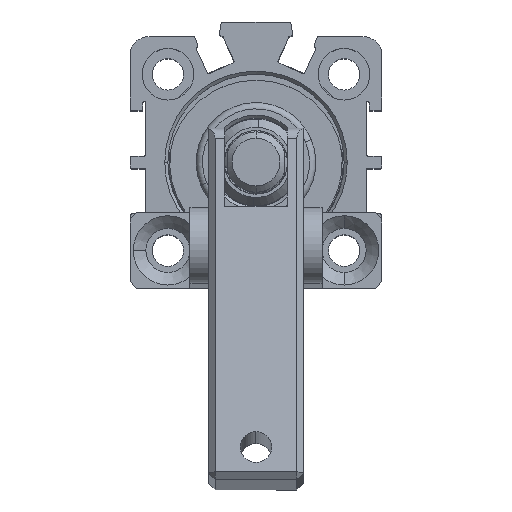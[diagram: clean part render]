
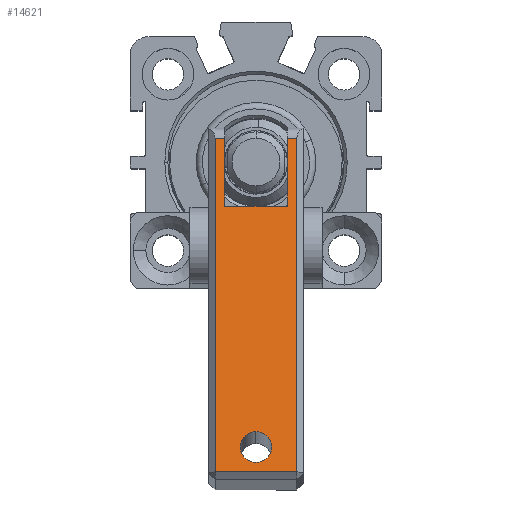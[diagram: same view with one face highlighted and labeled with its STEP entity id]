
A CAD part, top view. The second image highlights one B-rep face of the part: STEP entity #14621.
In plain terms, the highlighted planar face has unit normal (0, 0.19, 0.982) as drawn and (0, 1, 0) by its records, which use the part's own axes.
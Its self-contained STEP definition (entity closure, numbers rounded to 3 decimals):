
#25 = ORIENTED_EDGE ( 'NONE', *, *, #2933, .T. ) ;
#161 = EDGE_LOOP ( 'NONE', ( #11188, #25, #1455, #15914, #7009, #5903, #14858, #13605 ) ) ;
#297 = ORIENTED_EDGE ( 'NONE', *, *, #5810, .T. ) ;
#359 = CARTESIAN_POINT ( 'NONE',  ( 2.5, 13., 7.5 ) ) ;
#381 = VERTEX_POINT ( 'NONE', #9125 ) ;
#750 = LINE ( 'NONE', #1010, #9967 ) ;
#1010 = CARTESIAN_POINT ( 'NONE',  ( 1., 13., 15. ) ) ;
#1455 = ORIENTED_EDGE ( 'NONE', *, *, #12991, .T. ) ;
#1526 = CARTESIAN_POINT ( 'NONE',  ( 55., 13., 15. ) ) ;
#1649 = EDGE_CURVE ( 'NONE', #381, #14146, #7072, .T. ) ;
#1823 = FACE_OUTER_BOUND ( 'NONE', #161, .T. ) ;
#2478 = DIRECTION ( 'NONE',  ( 0., -1., 0. ) ) ;
#2682 = DIRECTION ( 'NONE',  ( 0., 0., 1. ) ) ;
#2870 = DIRECTION ( 'NONE',  ( 1., 0., 0. ) ) ;
#2933 = EDGE_CURVE ( 'NONE', #14146, #10530, #3835, .T. ) ;
#2950 = EDGE_CURVE ( 'NONE', #9847, #5938, #4602, .T. ) ;
#3299 = VECTOR ( 'NONE', #12858, 1000. ) ;
#3302 = CARTESIAN_POINT ( 'NONE',  ( 55., 13., 14. ) ) ;
#3652 = CARTESIAN_POINT ( 'NONE',  ( 7.5, 13., 7.5 ) ) ;
#3784 = LINE ( 'NONE', #14338, #6744 ) ;
#3835 = LINE ( 'NONE', #11630, #13633 ) ;
#4094 = CARTESIAN_POINT ( 'NONE',  ( 57., 13., 12.5 ) ) ;
#4176 = EDGE_CURVE ( 'NONE', #6420, #5919, #12613, .T. ) ;
#4602 = LINE ( 'NONE', #4094, #5395 ) ;
#4887 = CARTESIAN_POINT ( 'NONE',  ( 55., 13., 12.5 ) ) ;
#5013 = EDGE_CURVE ( 'NONE', #13744, #15610, #3784, .T. ) ;
#5127 = AXIS2_PLACEMENT_3D ( 'NONE', #10144, #2478, #11419 ) ;
#5395 = VECTOR ( 'NONE', #9230, 1000. ) ;
#5456 = AXIS2_PLACEMENT_3D ( 'NONE', #7680, #15103, #8843 ) ;
#5810 = EDGE_CURVE ( 'NONE', #5919, #6420, #8803, .T. ) ;
#5903 = ORIENTED_EDGE ( 'NONE', *, *, #14123, .T. ) ;
#5919 = VERTEX_POINT ( 'NONE', #3652 ) ;
#5938 = VERTEX_POINT ( 'NONE', #10300 ) ;
#5995 = LINE ( 'NONE', #1526, #14849 ) ;
#6420 = VERTEX_POINT ( 'NONE', #359 ) ;
#6669 = LINE ( 'NONE', #10400, #3299 ) ;
#6671 = EDGE_CURVE ( 'NONE', #16585, #13744, #750, .T. ) ;
#6744 = VECTOR ( 'NONE', #2870, 1000. ) ;
#7009 = ORIENTED_EDGE ( 'NONE', *, *, #5013, .T. ) ;
#7072 = LINE ( 'NONE', #9851, #15507 ) ;
#7097 = LINE ( 'NONE', #12362, #11708 ) ;
#7344 = DIRECTION ( 'NONE',  ( 1., 0., 0. ) ) ;
#7680 = CARTESIAN_POINT ( 'NONE',  ( 5., 13., 7.5 ) ) ;
#8803 = CIRCLE ( 'NONE', #5456, 2.5 ) ;
#8843 = DIRECTION ( 'NONE',  ( 1., 0., 0. ) ) ;
#9124 = DIRECTION ( 'NONE',  ( 0., 0., -1. ) ) ;
#9125 = CARTESIAN_POINT ( 'NONE',  ( 44., 13., 2.5 ) ) ;
#9230 = DIRECTION ( 'NONE',  ( -1., 0., 0. ) ) ;
#9847 = VERTEX_POINT ( 'NONE', #4887 ) ;
#9851 = CARTESIAN_POINT ( 'NONE',  ( 44., 13., 2.5 ) ) ;
#9967 = VECTOR ( 'NONE', #10072, 1000. ) ;
#10072 = DIRECTION ( 'NONE',  ( 0., 0., 1. ) ) ;
#10144 = CARTESIAN_POINT ( 'NONE',  ( 5., 13., 7.5 ) ) ;
#10300 = CARTESIAN_POINT ( 'NONE',  ( 44., 13., 12.5 ) ) ;
#10400 = CARTESIAN_POINT ( 'NONE',  ( 0., 13., 1. ) ) ;
#10530 = VERTEX_POINT ( 'NONE', #11107 ) ;
#10560 = ORIENTED_EDGE ( 'NONE', *, *, #4176, .T. ) ;
#11069 = DIRECTION ( 'NONE',  ( 0., 0., -1. ) ) ;
#11107 = CARTESIAN_POINT ( 'NONE',  ( 55., 13., 1. ) ) ;
#11188 = ORIENTED_EDGE ( 'NONE', *, *, #1649, .T. ) ;
#11419 = DIRECTION ( 'NONE',  ( 1., 0., 0. ) ) ;
#11445 = AXIS2_PLACEMENT_3D ( 'NONE', #15328, #11465, #2682 ) ;
#11465 = DIRECTION ( 'NONE',  ( 0., 1., 0. ) ) ;
#11630 = CARTESIAN_POINT ( 'NONE',  ( 55., 13., 15. ) ) ;
#11708 = VECTOR ( 'NONE', #11069, 1000. ) ;
#11744 = CARTESIAN_POINT ( 'NONE',  ( 55., 13., 2.5 ) ) ;
#11808 = CARTESIAN_POINT ( 'NONE',  ( 1., 13., 14. ) ) ;
#12362 = CARTESIAN_POINT ( 'NONE',  ( 44., 13., 12.5 ) ) ;
#12613 = CIRCLE ( 'NONE', #5127, 2.5 ) ;
#12678 = EDGE_CURVE ( 'NONE', #5938, #381, #7097, .T. ) ;
#12858 = DIRECTION ( 'NONE',  ( -1., 0., 0. ) ) ;
#12991 = EDGE_CURVE ( 'NONE', #10530, #16585, #6669, .T. ) ;
#13605 = ORIENTED_EDGE ( 'NONE', *, *, #12678, .T. ) ;
#13633 = VECTOR ( 'NONE', #9124, 1000. ) ;
#13744 = VERTEX_POINT ( 'NONE', #11808 ) ;
#14123 = EDGE_CURVE ( 'NONE', #15610, #9847, #5995, .T. ) ;
#14146 = VERTEX_POINT ( 'NONE', #11744 ) ;
#14338 = CARTESIAN_POINT ( 'NONE',  ( 0., 13., 14. ) ) ;
#14621 = ADVANCED_FACE ( 'NONE', ( #15050, #1823 ), #15385, .T. ) ;
#14849 = VECTOR ( 'NONE', #15633, 1000. ) ;
#14858 = ORIENTED_EDGE ( 'NONE', *, *, #2950, .T. ) ;
#15050 = FACE_BOUND ( 'NONE', #16057, .T. ) ;
#15103 = DIRECTION ( 'NONE',  ( 0., -1., 0. ) ) ;
#15232 = CARTESIAN_POINT ( 'NONE',  ( 1., 13., 1. ) ) ;
#15328 = CARTESIAN_POINT ( 'NONE',  ( 0., 13., 15. ) ) ;
#15385 = PLANE ( 'NONE',  #11445 ) ;
#15507 = VECTOR ( 'NONE', #7344, 1000. ) ;
#15610 = VERTEX_POINT ( 'NONE', #3302 ) ;
#15633 = DIRECTION ( 'NONE',  ( 0., 0., -1. ) ) ;
#15914 = ORIENTED_EDGE ( 'NONE', *, *, #6671, .T. ) ;
#16057 = EDGE_LOOP ( 'NONE', ( #297, #10560 ) ) ;
#16585 = VERTEX_POINT ( 'NONE', #15232 ) ;
